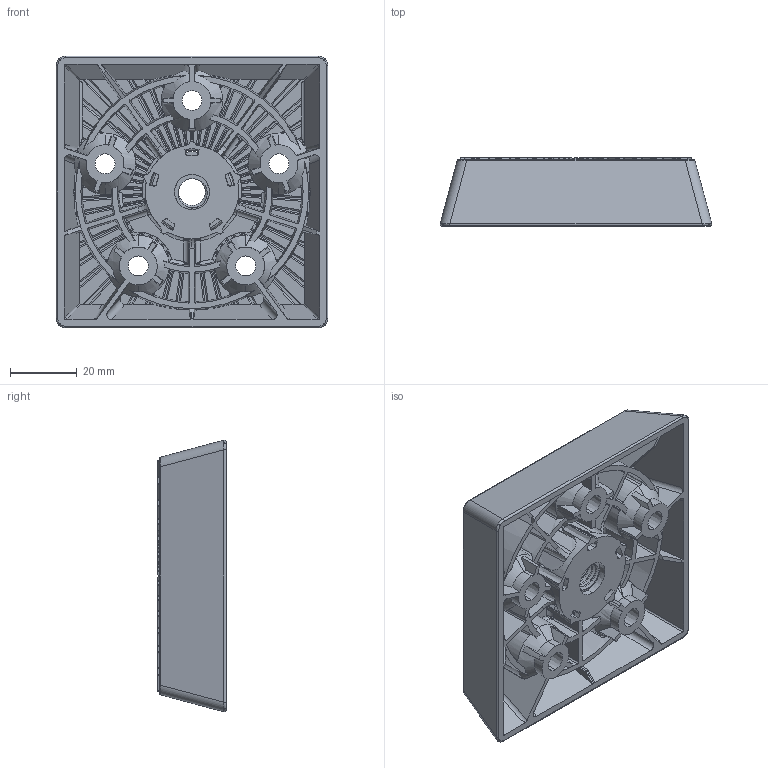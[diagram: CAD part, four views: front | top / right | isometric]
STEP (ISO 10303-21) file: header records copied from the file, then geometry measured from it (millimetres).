
FILE_DESCRIPTION (( 'STEP AP203' ), '1' );
FILE_NAME ('06.11.140 Rima.STEP', '2024-12-18T11:03:39', ( '' ), ( '' ), 'SwSTEP 2.0', 'SolidWorks 2024', '' );
FILE_SCHEMA (( 'CONFIG_CONTROL_DESIGN' ));
Length unit declared in the file: millimetre
Products named in the file (1): 06.11.140 Rima
Bounding box: 81.69 x 20.5 x 81.69 mm (x, y, z)
Surface area: 35586.4 mm2 (no closed solid volume)
Topology: 0 solids, 3 shells, 1008 faces, 3259 edges, 2222 vertices
Faces by surface type: plane 440, cylinder 254, cone 153, bspline 141, torus 20
Entity records: 41884 total; most frequent: CARTESIAN_POINT 16657, ORIENTED_EDGE 5849, DIRECTION 4276, EDGE_CURVE 3257, VERTEX_POINT 2222, AXIS2_PLACEMENT_3D 1594, VECTOR 1088, LINE 1088
